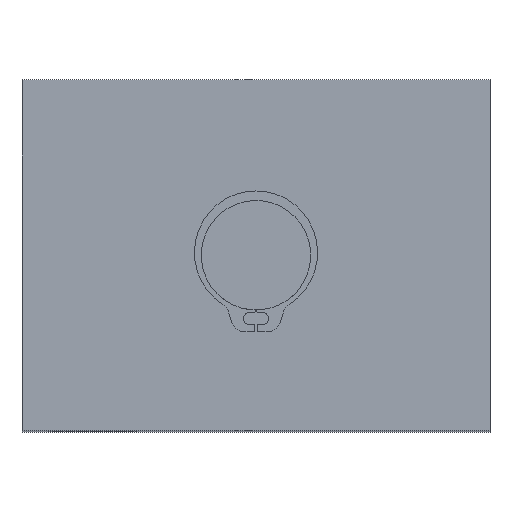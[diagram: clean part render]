
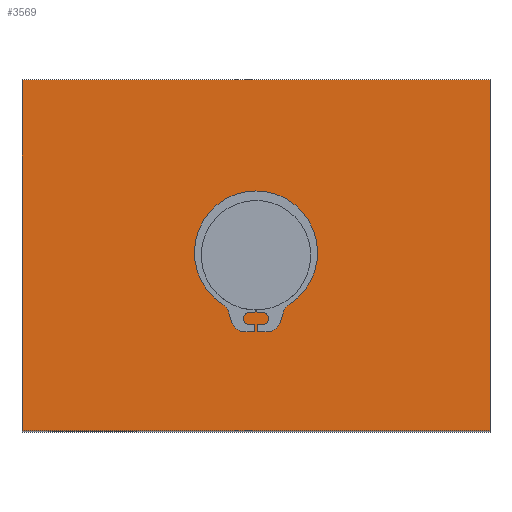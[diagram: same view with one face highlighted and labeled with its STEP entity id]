
A CAD part, top view. The second image highlights one B-rep face of the part: STEP entity #3569.
In plain terms, the highlighted planar face has unit normal (0, 0, 1).
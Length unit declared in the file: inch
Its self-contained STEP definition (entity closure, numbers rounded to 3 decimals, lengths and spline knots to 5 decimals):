
#94=CIRCLE('',#3746,0.118);
#259=FACE_BOUND('',#794,.T.);
#260=FACE_BOUND('',#795,.T.);
#794=EDGE_LOOP('',(#3087));
#795=EDGE_LOOP('',(#3088,#3089,#3090,#3091));
#976=LINE('',#5268,#1286);
#1170=LINE('',#6106,#1480);
#1174=LINE('',#6295,#1484);
#1175=LINE('',#6298,#1485);
#1286=VECTOR('',#3993,0.75);
#1480=VECTOR('',#4317,0.75);
#1484=VECTOR('',#4381,1.);
#1485=VECTOR('',#4386,1.);
#1604=VERTEX_POINT('',#5265);
#1605=VERTEX_POINT('',#5267);
#1765=VERTEX_POINT('',#6103);
#1766=VERTEX_POINT('',#6105);
#1778=VERTEX_POINT('',#6173);
#1980=EDGE_CURVE('',#1604,#1605,#976,.T.);
#2219=EDGE_CURVE('',#1765,#1766,#1170,.T.);
#2234=EDGE_CURVE('',#1778,#1778,#94,.T.);
#2240=EDGE_CURVE('',#1766,#1604,#1174,.T.);
#2241=EDGE_CURVE('',#1605,#1765,#1175,.T.);
#3087=ORIENTED_EDGE('',*,*,#2234,.T.);
#3088=ORIENTED_EDGE('',*,*,#2241,.F.);
#3089=ORIENTED_EDGE('',*,*,#1980,.F.);
#3090=ORIENTED_EDGE('',*,*,#2240,.F.);
#3091=ORIENTED_EDGE('',*,*,#2219,.F.);
#3394=PLANE('',#3760);
#3569=ADVANCED_FACE('',(#259,#260),#3394,.T.);
#3746=AXIS2_PLACEMENT_3D('',#6174,#4357,#4358);
#3760=AXIS2_PLACEMENT_3D('',#6299,#4387,#4388);
#3993=DIRECTION('',(0.,1.,0.));
#4317=DIRECTION('',(0.,-1.,0.));
#4357=DIRECTION('center_axis',(0.,0.,-1.));
#4358=DIRECTION('ref_axis',(1.,0.,0.));
#4381=DIRECTION('',(-1.,0.,0.));
#4386=DIRECTION('',(1.,0.,0.));
#4387=DIRECTION('center_axis',(0.,0.,1.));
#4388=DIRECTION('ref_axis',(1.,0.,0.));
#5265=CARTESIAN_POINT('',(-0.5,-0.375,0.));
#5267=CARTESIAN_POINT('',(-0.5,0.375,0.));
#5268=CARTESIAN_POINT('',(-0.5,-0.375,0.));
#6103=CARTESIAN_POINT('',(0.5,0.375,0.));
#6105=CARTESIAN_POINT('',(0.5,-0.375,0.));
#6106=CARTESIAN_POINT('',(0.5,0.375,0.));
#6173=CARTESIAN_POINT('',(-0.118,0.,0.));
#6174=CARTESIAN_POINT('Origin',(0.,0.,0.));
#6295=CARTESIAN_POINT('',(0.5,-0.375,0.));
#6298=CARTESIAN_POINT('',(-0.5,0.375,0.));
#6299=CARTESIAN_POINT('Origin',(0.,0.,
0.));
